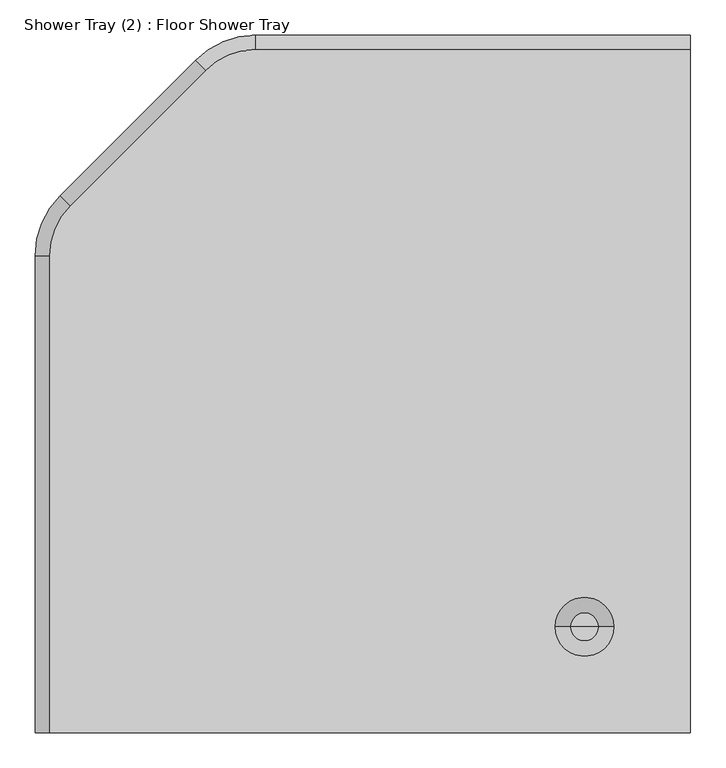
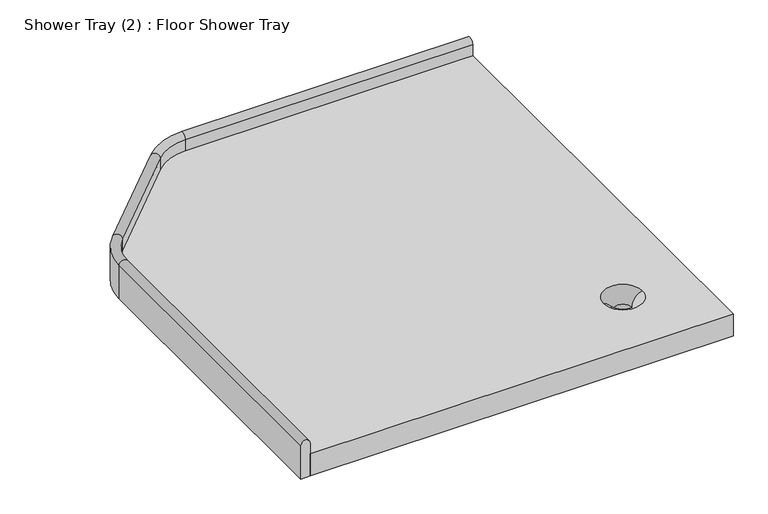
"""IFC4 building model written with IfcOpenShell, lengths in millimetres: flow terminal geometry, Shower Tray (2) : Floor Shower Tray."""

from ifc_helpers import new_model, si_unit, point, frame, origin, place, context, project, spatial, polyline, circle_curve, ellipse_curve, trimmed, source, transform, mapped, element, save
from ifc_brep_helpers import plane_surface, cylinder_surface, revolved_surface, advanced_brep


def shower_tray_2_floor_shower_tray_997da0d4(model_context):
    return source(origin(), model_context, "Body", "AdvancedBrep", [
        advanced_brep(
        [(0.0, 968.0, 75.0), (0.0, 968.0, 0.0), (0.0, 988.0, 0.0), (0.0, 988.0, 75.0), (-616.0118013, 968.0, 75.0), (-616.0118013, 968.0, 0.0), (-686.7224794, 938.7106781, 0.0), (-878.7123781, 746.7207794, 0.0), (-908.0017, 676.0101013, 0.0), (-908.0017, 0.0, 0.0), (-928.0017, 0.0, 0.0), (-928.0017, 676.0101013, 0.0), (-892.8545137, 760.862915, 0.0), (-700.864615, 952.8528137, 0.0), (-616.0118013, 988.0, 0.0), (-616.0118013, 988.0, 75.0), (-686.7224794, 938.7106781, 75.0), (-700.864615, 952.8528137, 75.0), (-878.7123781, 746.7207794, 75.0), (-892.8545137, 760.862915, 75.0), (-908.0017, 676.0101013, 75.0), (-928.0017, 676.0101013, 75.0), (-908.0017, 0.0, 75.0), (-928.0017, 0.0, 75.0)],
        [
            (0, 1),
            (1, 2),
            (2, 3),
            (3, 0, circle_curve(frame((0.0, 978.0, 75.0), z_axis=(1.0, 0.0, 0.0), x_axis=(0.0, -1.0, 0.0)), 10.0)),
            (0, 4),
            (4, 5),
            (5, 1),
            (5, 6, circle_curve(frame((-616.0118013, 868.0, 0.0), z_axis=(0.0, 0.0, 1.0), x_axis=(0.0, 1.0, 0.0)), 100.0)),
            (6, 7),
            (7, 8, circle_curve(frame((-808.0017, 676.0101013, 0.0), z_axis=(0.0, 0.0, 1.0), x_axis=(-0.707106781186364, 0.707106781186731, 0.0)), 100.0)),
            (8, 9),
            (9, 10),
            (10, 11),
            (11, 12, circle_curve(frame((-808.0017, 676.0101013, 0.0), z_axis=(0.0, 0.0, -1.0), x_axis=(-0.707106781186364, 0.707106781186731, 0.0)), 120.0)),
            (12, 13),
            (13, 14, circle_curve(frame((-616.0118013, 868.0, 0.0), z_axis=(0.0, 0.0, -1.0), x_axis=(0.0, 1.0, 0.0)), 120.0)),
            (14, 2),
            (14, 15),
            (15, 3),
            (15, 4, circle_curve(frame((-616.0118013, 978.0, 75.0), z_axis=(1.0, 0.0, 0.0), x_axis=(0.0, -1.0, 0.0)), 10.0)),
            (4, 16, circle_curve(frame((-616.0118013, 868.0, 75.0), z_axis=(0.0, 0.0, 1.0), x_axis=(0.0, 1.0, 0.0)), 100.0)),
            (16, 6),
            (17, 15, circle_curve(frame((-616.0118013, 868.0, 75.0), z_axis=(0.0, 0.0, -1.0), x_axis=(0.0, 1.0, 0.0)), 120.0)),
            (13, 17),
            (17, 16, circle_curve(frame((-693.7935472, 945.7817459, 75.0), z_axis=(0.707106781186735, 0.7071067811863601, 0.0), x_axis=(0.7071067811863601, -0.707106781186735, 0.0)), 10.0)),
            (16, 18),
            (18, 7),
            (12, 19),
            (19, 17),
            (19, 18, circle_curve(frame((-885.7834459, 753.7918472, 75.0), z_axis=(0.707106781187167, 0.7071067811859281, 0.0), x_axis=(0.7071067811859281, -0.707106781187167, 0.0)), 10.0)),
            (18, 20, circle_curve(frame((-808.0017, 676.0101013, 75.0), z_axis=(0.0, 0.0, 1.0), x_axis=(-0.707106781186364, 0.707106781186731, 0.0)), 100.0)),
            (20, 8),
            (21, 19, circle_curve(frame((-808.0017, 676.0101013, 75.0), z_axis=(0.0, 0.0, -1.0), x_axis=(-0.707106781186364, 0.707106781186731, 0.0)), 120.0)),
            (11, 21),
            (21, 20, circle_curve(frame((-918.0017, 676.0101013, 75.0), z_axis=(0.0, 1.0, 0.0), x_axis=(1.0, 0.0, 0.0)), 10.0)),
            (22, 23, circle_curve(frame((-918.0017, 0.0, 75.0), z_axis=(0.0, -1.0, 0.0), x_axis=(1.0, 0.0, 0.0)), 10.0)),
            (23, 10),
            (9, 22),
            (20, 22),
            (23, 21),
        ],
        [
            plane_surface(frame((0.0, 968.0, 50.0), z_axis=(1.0, 0.0, 0.0), x_axis=(0.0, 0.0, 1.0))),
            plane_surface(frame((0.0, 968.0, 75.0), z_axis=(0.0, -1.0, 0.0), x_axis=(-1.0, 0.0, 0.0))),
            plane_surface(frame((0.0, 968.0, 0.0), z_axis=(0.0, 0.0, -1.0), x_axis=(-1.0, 0.0, 0.0))),
            plane_surface(frame((0.0, 988.0, 0.0), z_axis=(0.0, 1.0, 0.0), x_axis=(-1.0, 0.0, 0.0))),
            cylinder_surface(frame((0.0, 978.0, 75.0), z_axis=(1.0, 0.0, 0.0), x_axis=(0.0, -1.0, 0.0)), 10.0),
            revolved_surface(polyline([(-616.0118013, 968.0, 75.0), (-616.0118013, 968.0, 0.0)]), (-616.0118013, 868.0, 50.0), (0.0, 0.0, 1.0)),
            cylinder_surface(frame((-616.0118013, 868.0, 50.0), z_axis=(0.0, 0.0, 1.0), x_axis=(0.0, 1.0, 0.0)), 120.0),
            revolved_surface(trimmed(ellipse_curve(frame((-616.0118013, 978.0, 75.0), z_axis=(1.0, 0.0, 0.0), x_axis=(0.0, -1.0, 0.0)), 10.0, 10.0), [point((-616.0118013, 988.0, 75.0))], [point((-616.0118013, 968.0, 75.0))], True, "CARTESIAN"), (-616.0118013, 868.0, 50.0), (0.0, 0.0, 1.0)),
            plane_surface(frame((-686.7224794, 938.7106781, 75.0), z_axis=(0.7071067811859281, -0.707106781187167, 0.0), x_axis=(-0.707106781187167, -0.7071067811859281, 0.0))),
            plane_surface(frame((-700.864615, 952.8528137, 0.0), z_axis=(-0.7071067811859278, 0.7071067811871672, 0.0), x_axis=(-0.7071067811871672, -0.7071067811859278, 0.0))),
            cylinder_surface(frame((-693.7935472, 945.7817459, 75.0), z_axis=(0.707106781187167, 0.7071067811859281, 0.0), x_axis=(0.7071067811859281, -0.707106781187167, 0.0)), 10.0),
            revolved_surface(polyline([(-878.7123781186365, 746.720779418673, 75.0), (-878.7123781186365, 746.720779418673, 0.0)]), (-808.0017, 676.0101013, 50.0), (0.0, 0.0, 1.0)),
            cylinder_surface(frame((-808.0017, 676.0101013, 50.0), z_axis=(0.0, 0.0, 1.0), x_axis=(-0.707106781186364, 0.707106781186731, 0.0)), 120.0),
            revolved_surface(trimmed(ellipse_curve(frame((-885.7834459, 753.7918472, 75.0), z_axis=(0.7071067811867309, 0.7071067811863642, 0.0), x_axis=(0.7071067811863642, -0.7071067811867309, 0.0)), 10.0, 10.0), [point((-892.8545137, 760.862915, 75.0))], [point((-878.7123781, 746.7207794, 75.0))], True, "CARTESIAN"), (-808.0017, 676.0101013, 50.0), (0.0, 0.0, 1.0)),
            plane_surface(frame((-908.0017, 0.0, 50.0), z_axis=(0.0, -1.0, 0.0), x_axis=(0.0, 0.0, 1.0))),
            plane_surface(frame((-908.0017, 676.0101013, 75.0), z_axis=(1.0, 0.0, 0.0), x_axis=(0.0, -1.0, 0.0))),
            plane_surface(frame((-928.0017, 676.0101013, 0.0), z_axis=(-1.0, 0.0, 0.0), x_axis=(0.0, -1.0, 0.0))),
            cylinder_surface(frame((-918.0017, 676.0101013, 75.0), z_axis=(0.0, 1.0, 0.0), x_axis=(1.0, 0.0, 0.0)), 10.0),
        ],
        [
            (0, [[1, 2, 3, 4]]),
            (1, [[-1, 5, 6, 7]]),
            (2, [[-2, -7, 8, 9, 10, 11, 12, 13, 14, 15, 16, 17]]),
            (3, [[-3, -17, 18, 19]]),
            (4, [[-4, -19, 20, -5]]),
            (5, [[-8, -6, 21, 22]]),
            (6, [[23, -18, -16, 24]]),
            (7, [[-21, -20, -23, 25]]),
            (8, [[-22, 26, 27, -9]]),
            (9, [[-24, -15, 28, 29]]),
            (10, [[-25, -29, 30, -26]]),
            (11, [[-10, -27, 31, 32]]),
            (12, [[33, -28, -14, 34]]),
            (13, [[-31, -30, -33, 35]]),
            (14, [[36, 37, -12, 38]]),
            (15, [[-32, 39, -38, -11]]),
            (16, [[-34, -13, -37, 40]]),
            (17, [[-35, -40, -36, -39]]),
        ],
    ),
        advanced_brep(
        [(-908.0017, 0.0, 50.0), (0.0, 0.0, 50.0), (0.0, 968.0, 50.0), (-616.0118013, 968.0, 50.0), (-686.7224794, 938.7106781, 50.0), (-878.7123781, 746.7207794, 50.0), (-908.0017, 676.0101013, 50.0), (-108.5169697, 150.0, 50.0), (-191.4830303, 150.0, 50.0), (-908.0017, 0.0, 0.0), (-908.0017, 676.0101013, 0.0), (-878.7123781, 746.7207794, 0.0), (-686.7224794, 938.7106781, 0.0), (-616.0118013, 968.0, 0.0), (0.0, 968.0, 0.0), (0.0, 0.0, 0.0), (-130.0, 150.0, 20.0), (-170.0, 150.0, 20.0), (-130.0, 150.0, 5.0), (-150.0, 150.0, 5.0), (-170.0, 150.0, 5.0)],
        [
            (0, 1),
            (1, 2),
            (2, 3),
            (3, 4, circle_curve(frame((-616.0118013, 868.0, 50.0), z_axis=(0.0, 0.0, 1.0), x_axis=(1.0, 0.0, 0.0)), 100.0)),
            (4, 5),
            (5, 6, circle_curve(frame((-808.0017, 676.0101013, 50.0), z_axis=(0.0, 0.0, 1.0), x_axis=(1.0, 0.0, 0.0)), 100.0)),
            (6, 0),
            (7, 8, circle_curve(frame((-150.0, 150.0, 50.0), z_axis=(0.0, 0.0, -1.0), x_axis=(-1.0, 0.0, 0.0)), 41.4830303)),
            (8, 7, circle_curve(frame((-150.0, 150.0, 50.0), z_axis=(0.0, 0.0, -1.0), x_axis=(-1.0, 0.0, 0.0)), 41.4830303)),
            (9, 10),
            (10, 11, circle_curve(frame((-808.0017, 676.0101013, 0.0), z_axis=(0.0, 0.0, -1.0), x_axis=(1.0, 0.0, 0.0)), 100.0)),
            (11, 12),
            (12, 13, circle_curve(frame((-616.0118013, 868.0, 0.0), z_axis=(0.0, 0.0, -1.0), x_axis=(1.0, 0.0, 0.0)), 100.0)),
            (13, 14),
            (14, 15),
            (15, 9),
            (0, 9),
            (15, 1),
            (14, 2),
            (13, 3),
            (12, 4),
            (11, 5),
            (10, 6),
            (7, 16, circle_curve(frame((-98.3117193, 150.0, 20.0), z_axis=(0.0, -1.0, 0.0), x_axis=(-1.0, 0.0, 0.0)), 31.6882807)),
            (16, 17, circle_curve(frame((-150.0, 150.0, 20.0), z_axis=(0.0, 0.0, -1.0), x_axis=(-1.0, 0.0, 0.0)), 20.0)),
            (17, 8, circle_curve(frame((-201.6882807, 150.0, 20.0), z_axis=(0.0, -1.0, 0.0), x_axis=(1.0, 0.0, 0.0)), 31.6882807)),
            (17, 16, circle_curve(frame((-150.0, 150.0, 20.0), z_axis=(0.0, 0.0, -1.0), x_axis=(-1.0, 0.0, 0.0)), 20.0)),
            (18, 19),
            (19, 20),
            (20, 18, circle_curve(frame((-150.0, 150.0, 5.0), z_axis=(0.0, 0.0, 1.0), x_axis=(-1.0, 0.0, 0.0)), 20.0)),
            (18, 20, circle_curve(frame((-150.0, 150.0, 5.0), z_axis=(0.0, 0.0, 1.0), x_axis=(-1.0, 0.0, 0.0)), 20.0)),
            (16, 18),
            (20, 17),
        ],
        [
            plane_surface(frame((1571.2518184, 0.0, 50.0), z_axis=(0.0, 0.0, 1.0), x_axis=(1.0, 0.0, 0.0))),
            plane_surface(frame((1571.2518184, 0.0, 0.0), z_axis=(0.0, 0.0, -1.0), x_axis=(-1.0, 0.0, 0.0))),
            plane_surface(frame((-908.0017, 0.0, 50.0), z_axis=(0.0, -1.0, 0.0), x_axis=(0.0, 0.0, -1.0))),
            plane_surface(frame((0.0, 0.0, 50.0), z_axis=(1.0, 0.0, 0.0), x_axis=(0.0, 0.0, -1.0))),
            plane_surface(frame((0.0, 968.0, 50.0), z_axis=(0.0, 1.0, 0.0), x_axis=(0.0, 0.0, -1.0))),
            cylinder_surface(frame((-616.0118013, 868.0, 0.0), z_axis=(0.0, 0.0, 1.0), x_axis=(1.0, 0.0, 0.0)), 100.0),
            plane_surface(frame((-686.7224794, 938.7106781, 50.0), z_axis=(-0.7071067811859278, 0.7071067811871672, 0.0), x_axis=(0.0, 0.0, -1.0))),
            cylinder_surface(frame((-808.0017, 676.0101013, 0.0), z_axis=(0.0, 0.0, 1.0), x_axis=(1.0, 0.0, 0.0)), 100.0),
            plane_surface(frame((-908.0017, 676.0101013, 50.0), z_axis=(-1.0, 0.0, 0.0), x_axis=(0.0, 0.0, -1.0))),
            revolved_surface(trimmed(ellipse_curve(frame((-201.6882807, 150.0, 20.0), z_axis=(0.0, 1.0, 0.0), x_axis=(1.0, 0.0, 0.0)), 31.6882807, 31.6882807), [point((-191.4830303, 150.0, 50.0))], [point((-170.0, 150.0, 20.0))], True, "CARTESIAN"), (-150.0, 150.0, 105.0), (0.0, 0.0, 1.0)),
            plane_surface(frame((-150.0, 150.0, 5.0), z_axis=(0.0, 0.0, 1.0), x_axis=(-1.0, 0.0, 0.0))),
            revolved_surface(polyline([(-170.0, 150.0, 20.0), (-170.0, 150.0, 5.0)]), (-150.0, 150.0, 105.0), (0.0, 0.0, 1.0)),
        ],
        [
            (0, [[1, 2, 3, 4, 5, 6, 7], [8, 9]]),
            (1, [[10, 11, 12, 13, 14, 15, 16]]),
            (2, [[-1, 17, -16, 18]]),
            (3, [[-2, -18, -15, 19]]),
            (4, [[-3, -19, -14, 20]]),
            (5, [[-4, -20, -13, 21]]),
            (6, [[-5, -21, -12, 22]]),
            (7, [[-6, -22, -11, 23]]),
            (8, [[-7, -23, -10, -17]]),
            (9, [[24, 25, 26, -8]]),
            (9, [[-24, -9, -26, 27]]),
            (10, [[28, 29, 30]]),
            (10, [[-28, 31, -29]]),
            (11, [[-25, 32, -30, 33]]),
            (11, [[-27, -33, -31, -32]]),
        ],
    ),
    ])


if __name__ == "__main__":
    model = new_model("IFC4")
    model_context = context("Model", 3, world=origin())
    ifc_project = project(units=[si_unit("LENGTHUNIT", "METRE", prefix="MILLI")], contexts=[model_context])
    site = spatial("IfcSite", under=ifc_project)
    building = spatial("IfcBuilding", under=site)
    placement = place(None, origin())
    shower_tray_2_floor_shower_tray_shape = shower_tray_2_floor_shower_tray_997da0d4(model_context)
    element("IfcFlowTerminal", 1, ObjectType="Shower Tray (2) : Floor Shower Tray", at=placement, inside=building, context=model_context, shape_type="MappedRepresentation", body=[
        mapped(shower_tray_2_floor_shower_tray_shape, transform((0.0, 0.0, 0.0), x_axis=(1.0, 0.0, 0.0), y_axis=(0.0, 1.0, 0.0), z_axis=(0.0, 0.0, 1.0))),
    ])
    save(model, "model.ifc")
